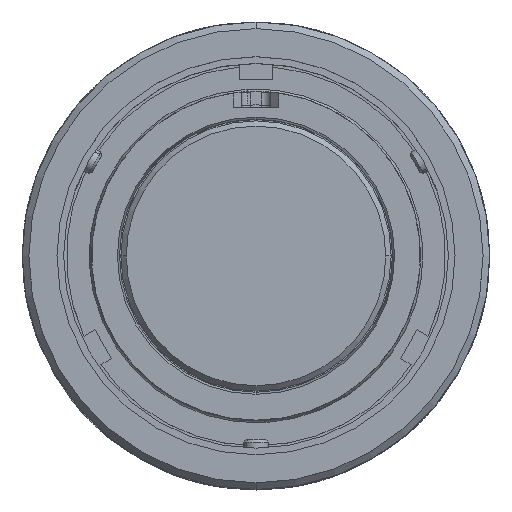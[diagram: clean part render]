
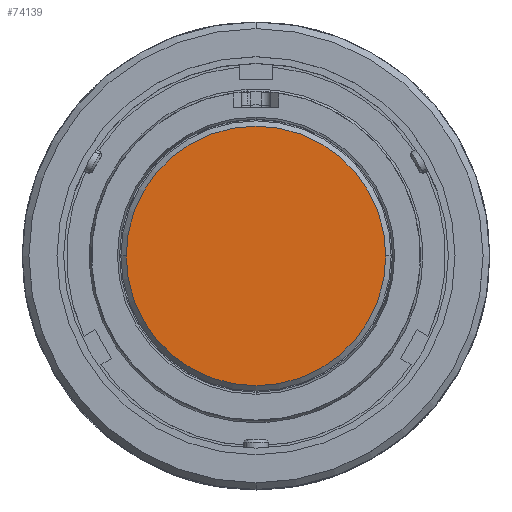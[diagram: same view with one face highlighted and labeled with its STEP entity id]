
A CAD part, top view. The second image highlights one B-rep face of the part: STEP entity #74139.
In plain terms, the highlighted planar face has unit normal (0, 0, 1).
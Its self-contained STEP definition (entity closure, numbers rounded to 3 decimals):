
#23732 = VERTEX_POINT ( 'NONE', #109729 ) ;
#29616 = DIRECTION ( 'NONE',  ( 0., 0., 1. ) ) ;
#35945 = CARTESIAN_POINT ( 'NONE',  ( 0., 0., -13.589 ) ) ;
#37784 = ORIENTED_EDGE ( 'NONE', *, *, #90299, .T. ) ;
#38388 = DIRECTION ( 'NONE',  ( 1., 0., 0. ) ) ;
#39248 = PLANE ( 'NONE',  #83042 ) ;
#46226 = DIRECTION ( 'NONE',  ( 0., 0., 1. ) ) ;
#48863 = CIRCLE ( 'NONE', #64241, 12.382 ) ;
#50564 = CIRCLE ( 'NONE', #60195, 12.382 ) ;
#56470 = CARTESIAN_POINT ( 'NONE',  ( 0., 0., -13.589 ) ) ;
#60195 = AXIS2_PLACEMENT_3D ( 'NONE', #56470, #46226, #38388 ) ;
#61809 = EDGE_CURVE ( 'NONE', #23732, #94932, #48863, .T. ) ;
#64241 = AXIS2_PLACEMENT_3D ( 'NONE', #35945, #72679, #101528 ) ;
#72086 = EDGE_LOOP ( 'NONE', ( #37784, #102925 ) ) ;
#72405 = FACE_OUTER_BOUND ( 'NONE', #72086, .T. ) ;
#72679 = DIRECTION ( 'NONE',  ( 0., 0., 1. ) ) ;
#74139 = ADVANCED_FACE ( 'NONE', ( #72405 ), #39248, .T. ) ;
#75968 = DIRECTION ( 'NONE',  ( 1., 0., 0. ) ) ;
#83042 = AXIS2_PLACEMENT_3D ( 'NONE', #103625, #29616, #75968 ) ;
#90299 = EDGE_CURVE ( 'NONE', #94932, #23732, #50564, .T. ) ;
#94932 = VERTEX_POINT ( 'NONE', #99790 ) ;
#99790 = CARTESIAN_POINT ( 'NONE',  ( -12.382, 0., -13.589 ) ) ;
#101528 = DIRECTION ( 'NONE',  ( 1., 0., 0. ) ) ;
#102925 = ORIENTED_EDGE ( 'NONE', *, *, #61809, .T. ) ;
#103625 = CARTESIAN_POINT ( 'NONE',  ( 0., 0., -13.589 ) ) ;
#109729 = CARTESIAN_POINT ( 'NONE',  ( 12.382, 0., -13.589 ) ) ;
